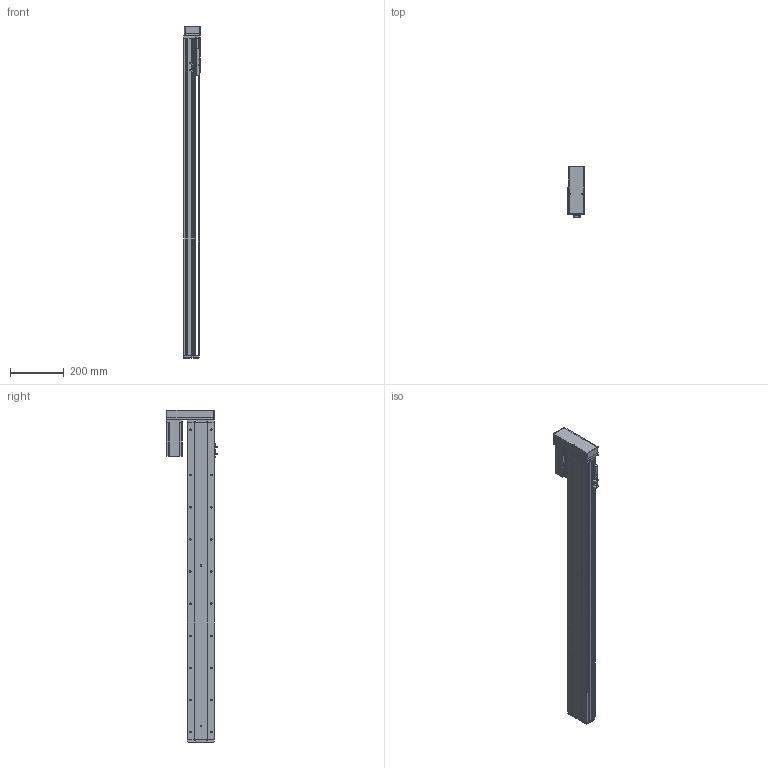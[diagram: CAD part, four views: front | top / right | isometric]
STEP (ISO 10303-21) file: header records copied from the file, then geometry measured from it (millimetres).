
FILE_DESCRIPTION (( 'STEP AP214' ), '1' );
FILE_NAME ('KSD100S-S1000-ML-CM.STEP', '2019-08-30T06:39:25', ( '微软用户' ), ( '微软中国' ), 'SwSTEP 2.0', 'SolidWorks 2014', '' );
FILE_SCHEMA (( 'AUTOMOTIVE_DESIGN' ));
Length unit declared in the file: millimetre
Products named in the file (10): U倰嫖萇EEㄜSX672; 悵誘欶酘衵殏; 台达ECMA－C20604AS伺服电机; 100宽马达安装板连板左右折丝杆; 100宽防尘板丝杆1000行程; 100遵鎮湛假蚾啣; 100宽滚珠螺姆安装板半封闭; 100遵傷啣; 100宽底板半封闭丝杆1000行程; KSD100S-S1000-ML-CM
Assembly tree (10 placements, depth 2):
  KSD100S-S1000-ML-CM
    100宽底板半封闭丝杆1000行程
    100遵傷啣
    100宽滚珠螺姆安装板半封闭
    100遵鎮湛假蚾啣
    100宽防尘板丝杆1000行程
    100宽马达安装板连板左右折丝杆
    台达ECMA－C20604AS伺服电机
    悵誘欶酘衵殏
    U倰嫖萇EEㄜSX672  x2
Bounding box: 62 x 193.7 x 1240.5 mm (x, y, z)
Volume: 2872464.3 mm3; surface area: 943469.2 mm2
Topology: 11 solids, 11 shells, 1229 faces, 3476 edges, 2177 vertices
Faces by surface type: cylinder 638, plane 432, cone 159
Entity records: 46947 total; most frequent: CARTESIAN_POINT 9473, DIRECTION 6341, ORIENTED_EDGE 6104, EDGE_CURVE 3052, AXIS2_PLACEMENT_3D 2325, VERTEX_POINT 1989, LINE 1691, VECTOR 1691
